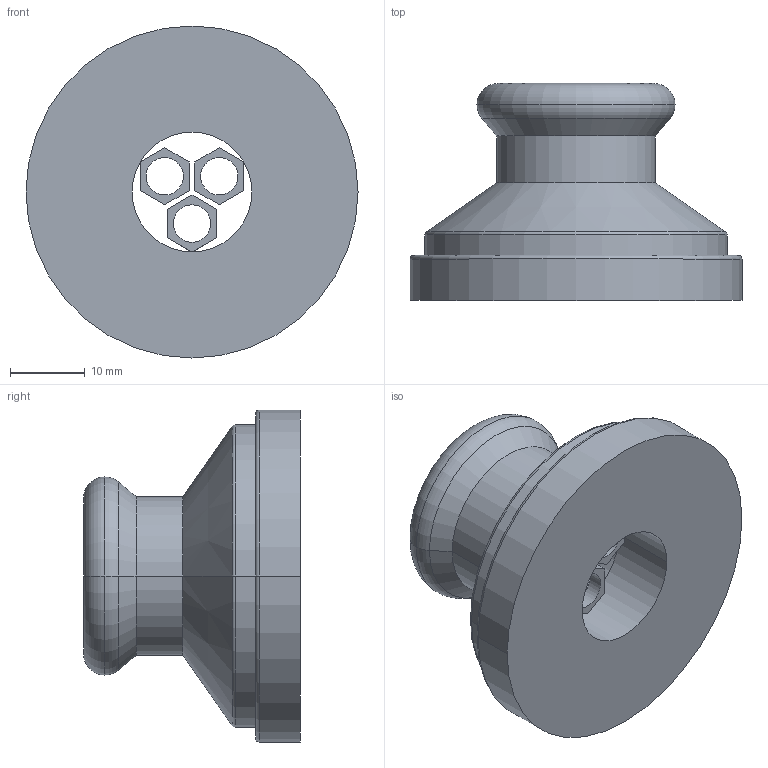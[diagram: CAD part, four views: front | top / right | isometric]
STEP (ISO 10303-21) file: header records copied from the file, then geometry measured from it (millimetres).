
FILE_DESCRIPTION(('OneSpaceDesigner STEP Export'),'2;1');
FILE_NAME('R2736 18x1 1-2.stp','2010-06-10T14:02:56',(''),(''),'OneSpace Designer STEP processor for AP214 (Solid Model)','OneSpace Modeling 15.00A 14-Mar-2007 (C) CoCreate Software GmbH','');
FILE_SCHEMA(('AUTOMOTIVE_DESIGN { 1 0 10303 214 1 1 1 1 }'));
Length unit declared in the file: millimetre
Products named in the file (2): R2736_18x1.1-2
Assembly tree (1 placements, depth 2):
  R2736_18x1.1-2
    R2736_18x1.1-2
Bounding box: 44.4 x 29 x 44.4 mm (x, y, z)
Volume: 16984 mm3; surface area: 7209.6 mm2
Topology: 1 solids, 1 shells, 65 faces, 157 edges, 100 vertices
Faces by surface type: plane 32, cylinder 21, torus 8, cone 4
Entity records: 1736 total; most frequent: ORIENTED_EDGE 314, CARTESIAN_POINT 278, DIRECTION 265, EDGE_CURVE 157, VERTEX_POINT 100, VECTOR 91, LINE 91, AXIS2_PLACEMENT_3D 87
